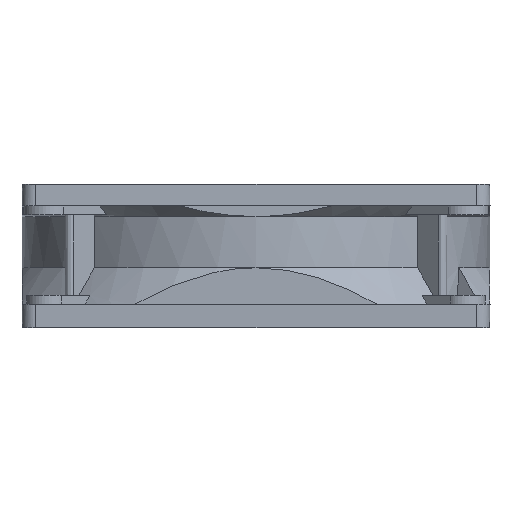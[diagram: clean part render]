
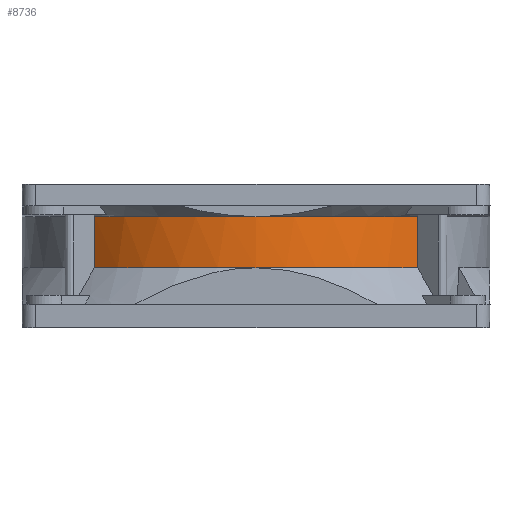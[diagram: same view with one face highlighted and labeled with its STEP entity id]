
A CAD part, front view. The second image highlights one B-rep face of the part: STEP entity #8736.
In plain terms, the highlighted free-form (B-spline) face has degree [1, 2] with [2, 9] control points.
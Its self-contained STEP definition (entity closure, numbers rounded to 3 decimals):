
#184=CARTESIAN_POINT('',(0.,-39.95,18.789));
#185=VERTEX_POINT('',#184);
#193=CARTESIAN_POINT('',(27.605,-28.878,18.789));
#194=VERTEX_POINT('',#193);
#195=CARTESIAN_POINT('',(0.,-39.95,18.789));
#196=CARTESIAN_POINT('',(16.023,-39.95,18.789));
#197=CARTESIAN_POINT('',(27.605,-28.878,18.789));
#198=(BOUNDED_CURVE()B_SPLINE_CURVE(2,(#195,#196,#197),.UNSPECIFIED.,.F.,.U.)B_SPLINE_CURVE_WITH_KNOTS((3,3),(0.,1.),.UNSPECIFIED.)CURVE()GEOMETRIC_REPRESENTATION_ITEM()RATIONAL_B_SPLINE_CURVE((1.,0.928,1.))REPRESENTATION_ITEM(''));
#199=EDGE_CURVE('',#185,#194,#198,.T.);
#731=CARTESIAN_POINT('',(27.605,-28.878,10.031));
#732=VERTEX_POINT('',#731);
#740=CARTESIAN_POINT('',(0.,-39.95,10.031));
#741=VERTEX_POINT('',#740);
#742=CARTESIAN_POINT('',(27.605,-28.878,10.031));
#743=CARTESIAN_POINT('',(16.023,-39.95,10.031));
#744=CARTESIAN_POINT('',(0.,-39.95,10.031));
#745=(BOUNDED_CURVE()B_SPLINE_CURVE(2,(#742,#743,#744),.UNSPECIFIED.,.F.,.U.)B_SPLINE_CURVE_WITH_KNOTS((3,3),(0.,1.),.UNSPECIFIED.)CURVE()GEOMETRIC_REPRESENTATION_ITEM()RATIONAL_B_SPLINE_CURVE((1.,0.928,1.))REPRESENTATION_ITEM(''));
#746=EDGE_CURVE('',#732,#741,#745,.T.);
#772=CARTESIAN_POINT('',(27.605,-28.878,18.789));
#773=CARTESIAN_POINT('',(27.605,-28.878,10.031));
#774=B_SPLINE_CURVE_WITH_KNOTS('',1,(#772,#773),.POLYLINE_FORM.,.F.,.U.,(2,2),(0.,1.),.UNSPECIFIED.);
#775=EDGE_CURVE('',#194,#732,#774,.T.);
#904=CARTESIAN_POINT('',(-27.605,-28.878,18.789));
#905=VERTEX_POINT('',#904);
#911=CARTESIAN_POINT('',(-27.605,-28.878,18.789));
#912=CARTESIAN_POINT('',(-16.023,-39.95,18.789));
#913=CARTESIAN_POINT('',(0.,-39.95,18.789));
#914=(BOUNDED_CURVE()B_SPLINE_CURVE(2,(#911,#912,#913),.UNSPECIFIED.,.F.,.U.)B_SPLINE_CURVE_WITH_KNOTS((3,3),(0.,1.),.UNSPECIFIED.)CURVE()GEOMETRIC_REPRESENTATION_ITEM()RATIONAL_B_SPLINE_CURVE((1.,0.928,1.))REPRESENTATION_ITEM(''));
#915=EDGE_CURVE('',#905,#185,#914,.T.);
#1006=CARTESIAN_POINT('',(-27.605,-28.878,10.031));
#1007=VERTEX_POINT('',#1006);
#1043=CARTESIAN_POINT('',(0.,-39.95,10.031));
#1044=CARTESIAN_POINT('',(-16.023,-39.95,10.031));
#1045=CARTESIAN_POINT('',(-27.605,-28.878,10.031));
#1046=(BOUNDED_CURVE()B_SPLINE_CURVE(2,(#1043,#1044,#1045),.UNSPECIFIED.,.F.,.U.)B_SPLINE_CURVE_WITH_KNOTS((3,3),(0.,1.),.UNSPECIFIED.)CURVE()GEOMETRIC_REPRESENTATION_ITEM()RATIONAL_B_SPLINE_CURVE((1.,0.928,1.))REPRESENTATION_ITEM(''));
#1047=EDGE_CURVE('',#741,#1007,#1046,.T.);
#1164=CARTESIAN_POINT('',(-27.605,-28.878,10.031));
#1165=CARTESIAN_POINT('',(-27.605,-28.878,18.789));
#1166=B_SPLINE_CURVE_WITH_KNOTS('',1,(#1164,#1165),.POLYLINE_FORM.,.F.,.U.,(2,2),(0.,1.),.UNSPECIFIED.);
#1167=EDGE_CURVE('',#1007,#905,#1166,.T.);
#8709=CARTESIAN_POINT('',(27.764,-28.727,10.031));
#8710=CARTESIAN_POINT('',(27.685,-28.802,10.031));
#8711=CARTESIAN_POINT('',(27.605,-28.878,10.031));
#8712=CARTESIAN_POINT('',(16.023,-39.95,10.031));
#8713=CARTESIAN_POINT('',(0.,-39.95,10.031));
#8714=CARTESIAN_POINT('',(-16.023,-39.95,10.031));
#8715=CARTESIAN_POINT('',(-27.605,-28.878,10.031));
#8716=CARTESIAN_POINT('',(-27.685,-28.802,10.031));
#8717=CARTESIAN_POINT('',(-27.764,-28.727,10.031));
#8718=CARTESIAN_POINT('',(27.764,-28.727,18.789));
#8719=CARTESIAN_POINT('',(27.685,-28.802,18.789));
#8720=CARTESIAN_POINT('',(27.605,-28.878,18.789));
#8721=CARTESIAN_POINT('',(16.023,-39.95,18.789));
#8722=CARTESIAN_POINT('',(0.,-39.95,18.789));
#8723=CARTESIAN_POINT('',(-16.023,-39.95,18.789));
#8724=CARTESIAN_POINT('',(-27.605,-28.878,18.789));
#8725=CARTESIAN_POINT('',(-27.685,-28.802,18.789));
#8726=CARTESIAN_POINT('',(-27.764,-28.727,18.789));
#8727=(BOUNDED_SURFACE()B_SPLINE_SURFACE(1,2,((#8709,#8710,#8711,#8712,#8713,#8714,#8715,#8716,#8717),(#8718,#8719,#8720,#8721,#8722,#8723,#8724,#8725,#8726)),.SURF_OF_LINEAR_EXTRUSION.,.F.,.F.,.U.)B_SPLINE_SURFACE_WITH_KNOTS((2,2),(3,2,2,2,3),(0.,8.758),(0.,0.218,32.265,64.312,64.53),.UNSPECIFIED.)GEOMETRIC_REPRESENTATION_ITEM()RATIONAL_B_SPLINE_SURFACE(((0.854,0.854,0.854,0.858,1.,0.858,0.854,0.854,0.854),(0.854,0.854,0.854,0.858,1.,0.858,0.854,0.854,0.854)))REPRESENTATION_ITEM('')SURFACE());
#8728=ORIENTED_EDGE('',*,*,#746,.F.);
#8729=ORIENTED_EDGE('',*,*,#775,.F.);
#8730=ORIENTED_EDGE('',*,*,#199,.F.);
#8731=ORIENTED_EDGE('',*,*,#915,.F.);
#8732=ORIENTED_EDGE('',*,*,#1167,.F.);
#8733=ORIENTED_EDGE('',*,*,#1047,.F.);
#8734=EDGE_LOOP('',(#8728,#8729,#8730,#8731,#8732,#8733));
#8735=FACE_OUTER_BOUND('',#8734,.T.);
#8736=ADVANCED_FACE('',(#8735),#8727,.T.);
